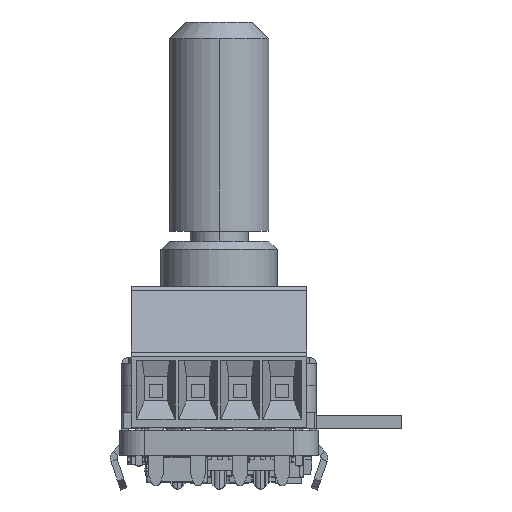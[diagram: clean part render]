
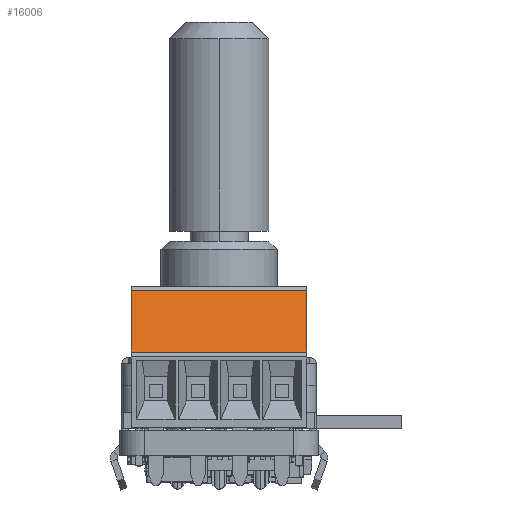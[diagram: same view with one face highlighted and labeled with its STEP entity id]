
A CAD part, front view. The second image highlights one B-rep face of the part: STEP entity #16006.
In plain terms, the highlighted planar face has unit normal (0, -0.966, 0.259) as drawn and (0, 0.259, 0.966) by its records, which use the part's own axes.
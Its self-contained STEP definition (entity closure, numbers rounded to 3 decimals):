
#14071 = PLANE('',#14072);
#14072 = AXIS2_PLACEMENT_3D('',#14073,#14074,#14075);
#14073 = CARTESIAN_POINT('',(-1.47,3.95,1.57));
#14074 = DIRECTION('',(-1.,0.,0.));
#14075 = DIRECTION('',(0.,0.,1.));
#14125 = PLANE('',#14126);
#14126 = AXIS2_PLACEMENT_3D('',#14127,#14128,#14129);
#14127 = CARTESIAN_POINT('',(9.09,3.95,-1.116));
#14128 = DIRECTION('',(1.,0.,0.));
#14129 = DIRECTION('',(0.,0.,-1.));
#15841 = CYLINDRICAL_SURFACE('',#15842,0.3);
#15842 = AXIS2_PLACEMENT_3D('',#15843,#15844,#15845);
#15843 = CARTESIAN_POINT('',(1.27,3.95,1.57));
#15844 = DIRECTION('',(-1.,0.,0.));
#15845 = DIRECTION('',(0.,0.,1.));
#16006 = ADVANCED_FACE('',(#16007),#16021,.F.);
#16007 = FACE_BOUND('',#16008,.T.);
#16008 = EDGE_LOOP('',(#16009,#16044,#16067,#16090));
#16009 = ORIENTED_EDGE('',*,*,#16010,.F.);
#16010 = EDGE_CURVE('',#16011,#16013,#16015,.T.);
#16011 = VERTEX_POINT('',#16012);
#16012 = CARTESIAN_POINT('',(9.09,0.3,2.858));
#16013 = VERTEX_POINT('',#16014);
#16014 = CARTESIAN_POINT('',(-1.47,0.3,2.858));
#16015 = SURFACE_CURVE('',#16016,(#16020,#16032),.PCURVE_S1.);
#16016 = LINE('',#16017,#16018);
#16017 = CARTESIAN_POINT('',(1.27,0.3,2.858));
#16018 = VECTOR('',#16019,1.);
#16019 = DIRECTION('',(-1.,-0.,-0.));
#16020 = PCURVE('',#16021,#16026);
#16021 = PLANE('',#16022);
#16022 = AXIS2_PLACEMENT_3D('',#16023,#16024,#16025);
#16023 = CARTESIAN_POINT('',(1.27,0.3,2.858));
#16024 = DIRECTION('',(0.,-0.259,-0.966));
#16025 = DIRECTION('',(0.,0.966,-0.259));
#16026 = DEFINITIONAL_REPRESENTATION('',(#16027),#16031);
#16027 = LINE('',#16028,#16029);
#16028 = CARTESIAN_POINT('',(0.,0.));
#16029 = VECTOR('',#16030,1.);
#16030 = DIRECTION('',(0.,-1.));
#16031 = ( GEOMETRIC_REPRESENTATION_CONTEXT(2) 
PARAMETRIC_REPRESENTATION_CONTEXT() REPRESENTATION_CONTEXT('2D SPACE',''
  ) );
#16032 = PCURVE('',#16033,#16038);
#16033 = PLANE('',#16034);
#16034 = AXIS2_PLACEMENT_3D('',#16035,#16036,#16037);
#16035 = CARTESIAN_POINT('',(1.27,0.3,2.95));
#16036 = DIRECTION('',(0.,-1.,0.));
#16037 = DIRECTION('',(0.,-0.,-1.));
#16038 = DEFINITIONAL_REPRESENTATION('',(#16039),#16043);
#16039 = LINE('',#16040,#16041);
#16040 = CARTESIAN_POINT('',(0.092,0.));
#16041 = VECTOR('',#16042,1.);
#16042 = DIRECTION('',(0.,-1.));
#16043 = ( GEOMETRIC_REPRESENTATION_CONTEXT(2) 
PARAMETRIC_REPRESENTATION_CONTEXT() REPRESENTATION_CONTEXT('2D SPACE',''
  ) );
#16044 = ORIENTED_EDGE('',*,*,#16045,.F.);
#16045 = EDGE_CURVE('',#16046,#16011,#16048,.T.);
#16046 = VERTEX_POINT('',#16047);
#16047 = CARTESIAN_POINT('',(9.09,4.028,1.86));
#16048 = SURFACE_CURVE('',#16049,(#16053,#16060),.PCURVE_S1.);
#16049 = LINE('',#16050,#16051);
#16050 = CARTESIAN_POINT('',(9.09,4.028,1.86));
#16051 = VECTOR('',#16052,1.);
#16052 = DIRECTION('',(0.,-0.966,0.259));
#16053 = PCURVE('',#16021,#16054);
#16054 = DEFINITIONAL_REPRESENTATION('',(#16055),#16059);
#16055 = LINE('',#16056,#16057);
#16056 = CARTESIAN_POINT('',(3.859,7.82));
#16057 = VECTOR('',#16058,1.);
#16058 = DIRECTION('',(-1.,0.));
#16059 = ( GEOMETRIC_REPRESENTATION_CONTEXT(2) 
PARAMETRIC_REPRESENTATION_CONTEXT() REPRESENTATION_CONTEXT('2D SPACE',''
  ) );
#16060 = PCURVE('',#14125,#16061);
#16061 = DEFINITIONAL_REPRESENTATION('',(#16062),#16066);
#16062 = LINE('',#16063,#16064);
#16063 = CARTESIAN_POINT('',(-2.975,0.078));
#16064 = VECTOR('',#16065,1.);
#16065 = DIRECTION('',(-0.259,-0.966));
#16066 = ( GEOMETRIC_REPRESENTATION_CONTEXT(2) 
PARAMETRIC_REPRESENTATION_CONTEXT() REPRESENTATION_CONTEXT('2D SPACE',''
  ) );
#16067 = ORIENTED_EDGE('',*,*,#16068,.T.);
#16068 = EDGE_CURVE('',#16046,#16069,#16071,.T.);
#16069 = VERTEX_POINT('',#16070);
#16070 = CARTESIAN_POINT('',(-1.47,4.028,1.86));
#16071 = SURFACE_CURVE('',#16072,(#16076,#16083),.PCURVE_S1.);
#16072 = LINE('',#16073,#16074);
#16073 = CARTESIAN_POINT('',(1.27,4.028,1.86));
#16074 = VECTOR('',#16075,1.);
#16075 = DIRECTION('',(-1.,0.,0.));
#16076 = PCURVE('',#16021,#16077);
#16077 = DEFINITIONAL_REPRESENTATION('',(#16078),#16082);
#16078 = LINE('',#16079,#16080);
#16079 = CARTESIAN_POINT('',(3.859,0.));
#16080 = VECTOR('',#16081,1.);
#16081 = DIRECTION('',(0.,-1.));
#16082 = ( GEOMETRIC_REPRESENTATION_CONTEXT(2) 
PARAMETRIC_REPRESENTATION_CONTEXT() REPRESENTATION_CONTEXT('2D SPACE',''
  ) );
#16083 = PCURVE('',#15841,#16084);
#16084 = DEFINITIONAL_REPRESENTATION('',(#16085),#16089);
#16085 = LINE('',#16086,#16087);
#16086 = CARTESIAN_POINT('',(0.262,0.));
#16087 = VECTOR('',#16088,1.);
#16088 = DIRECTION('',(0.,1.));
#16089 = ( GEOMETRIC_REPRESENTATION_CONTEXT(2) 
PARAMETRIC_REPRESENTATION_CONTEXT() REPRESENTATION_CONTEXT('2D SPACE',''
  ) );
#16090 = ORIENTED_EDGE('',*,*,#16091,.F.);
#16091 = EDGE_CURVE('',#16013,#16069,#16092,.T.);
#16092 = SURFACE_CURVE('',#16093,(#16097,#16104),.PCURVE_S1.);
#16093 = LINE('',#16094,#16095);
#16094 = CARTESIAN_POINT('',(-1.47,0.3,2.858));
#16095 = VECTOR('',#16096,1.);
#16096 = DIRECTION('',(0.,0.966,-0.259));
#16097 = PCURVE('',#16021,#16098);
#16098 = DEFINITIONAL_REPRESENTATION('',(#16099),#16103);
#16099 = LINE('',#16100,#16101);
#16100 = CARTESIAN_POINT('',(0.,-2.74));
#16101 = VECTOR('',#16102,1.);
#16102 = DIRECTION('',(1.,0.));
#16103 = ( GEOMETRIC_REPRESENTATION_CONTEXT(2) 
PARAMETRIC_REPRESENTATION_CONTEXT() REPRESENTATION_CONTEXT('2D SPACE',''
  ) );
#16104 = PCURVE('',#14071,#16105);
#16105 = DEFINITIONAL_REPRESENTATION('',(#16106),#16110);
#16106 = LINE('',#16107,#16108);
#16107 = CARTESIAN_POINT('',(1.289,-3.65));
#16108 = VECTOR('',#16109,1.);
#16109 = DIRECTION('',(-0.259,0.966));
#16110 = ( GEOMETRIC_REPRESENTATION_CONTEXT(2) 
PARAMETRIC_REPRESENTATION_CONTEXT() REPRESENTATION_CONTEXT('2D SPACE',''
  ) );
